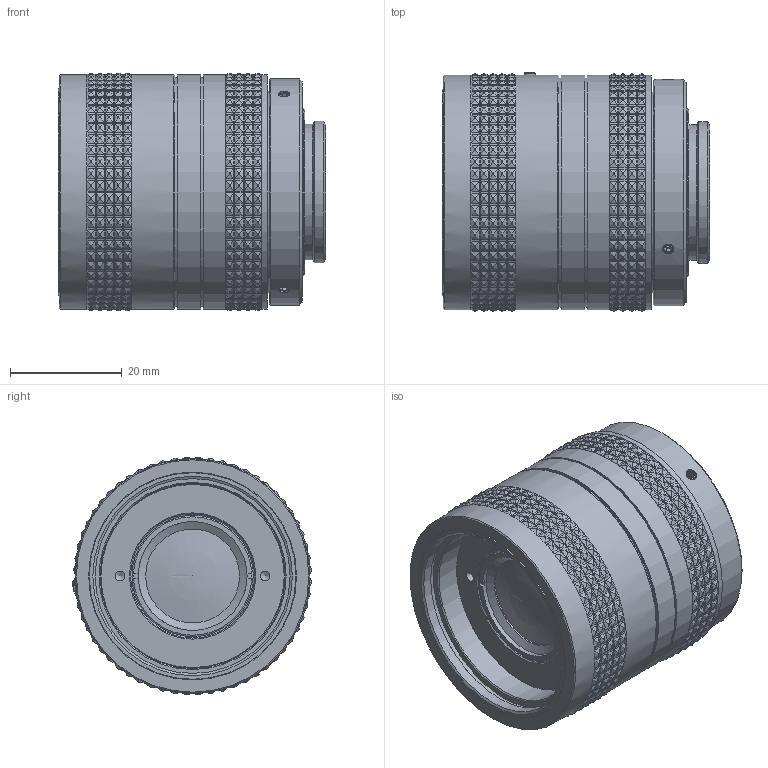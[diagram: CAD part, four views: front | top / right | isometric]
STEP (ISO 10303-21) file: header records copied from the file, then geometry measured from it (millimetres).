
FILE_DESCRIPTION(/* description */ (''),/* implementation_level */ '2;1');
FILE_NAME(/* name */ '0020-002-000-40_AP',/* time_stamp */ '2009-07-29T12:56:04+02:00',/* author */ (''),/* organization */ (''),/* preprocessor_version */ 'ST-DEVELOPER v9',/* originating_system */ 'UGS - NX 4.0',/* authorisation */ '');
FILE_SCHEMA (('AUTOMOTIVE_DESIGN { 1 0 10303 214 1 1 1 1 }'));
Products named in the file (1): pant4B41j2ri
Bounding box: 47.8 x 42.77 x 42.56 mm (x, y, z)
Volume: 53778.3 mm3; surface area: 16017.8 mm2
Topology: 1 solids, 8 shells, 3445 faces, 9071 edges, 5676 vertices
Faces by surface type: plane 1704, cone 1127, cylinder 611, revolution 2, torus 1
Full cylindrical faces by diameter (mm): 0.8 x1, 1.2 x3, 1.567 x1, 1.7 x2, 2 x1, 2.013 x3, 16 x1, 16.8 x1, 18 x2, 19.5 x1, 22 x1, 22.2 x2, 22.6 x1, 24.2 x1, 25.4 x1, 30 x2, 32 x2, 32.8 x1, 33.1 x1, 34.886 x1, 35.7 x1, 36 x2, 37 x1, 37.2 x2, 39 x1, 40.5 x1, 41 x2, 41.2 x1, 41.4 x1, 41.5 x1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
Entity records: 133340 total; most frequent: CARTESIAN_POINT 32133, ORIENTED_EDGE 17848, DIRECTION 13762, EDGE_CURVE 8924, AXIS2_PLACEMENT_3D 5740, VERTEX_POINT 5639, B_SPLINE_CURVE_WITH_KNOTS 4350, EDGE_LOOP 3592
